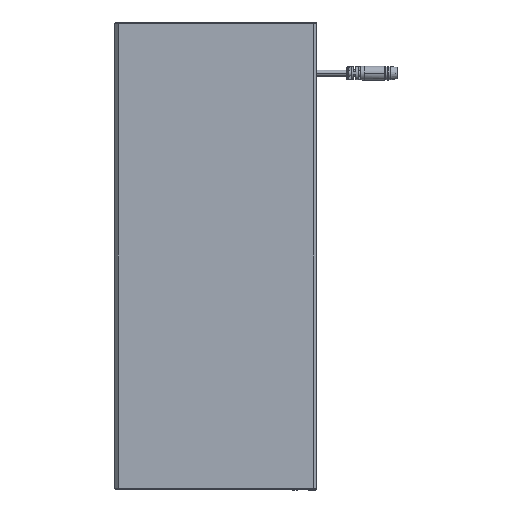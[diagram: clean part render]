
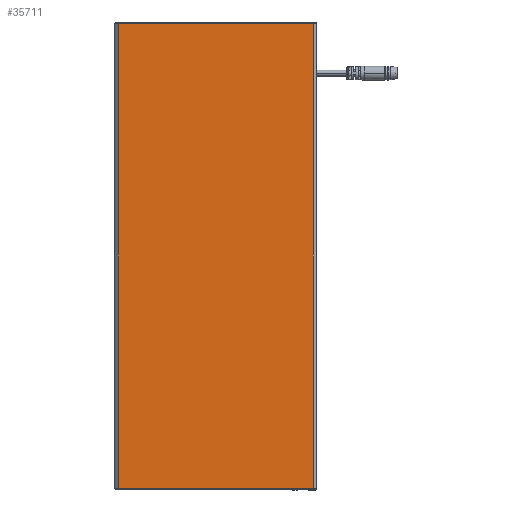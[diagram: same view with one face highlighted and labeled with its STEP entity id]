
A CAD part, front view. The second image highlights one B-rep face of the part: STEP entity #35711.
In plain terms, the highlighted planar face has unit normal (0, -1, 0).
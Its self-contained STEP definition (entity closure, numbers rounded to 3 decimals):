
#2030 = CARTESIAN_POINT ( 'NONE',  ( 881.516, 1157.01, 8.457 ) ) ;
#4106 = EDGE_CURVE ( 'NONE', #57305, #18849, #38367, .T. ) ;
#8577 = CARTESIAN_POINT ( 'NONE',  ( 881.516, 1157.01, 8.457 ) ) ;
#17629 = CARTESIAN_POINT ( 'NONE',  ( 755.516, 1157.01, 8.457 ) ) ;
#18690 = CARTESIAN_POINT ( 'NONE',  ( 881.516, 1157.01, 308.457 ) ) ;
#18849 = VERTEX_POINT ( 'NONE', #54746 ) ;
#19354 = EDGE_CURVE ( 'NONE', #26476, #26379, #35154, .T. ) ;
#19892 = CARTESIAN_POINT ( 'NONE',  ( 881.516, 1157.01, 8.457 ) ) ;
#20879 = VECTOR ( 'NONE', #77897, 1000. ) ;
#22163 = DIRECTION ( 'NONE',  ( -1., 0., 0. ) ) ;
#23397 = ORIENTED_EDGE ( 'NONE', *, *, #26041, .T. ) ;
#24832 = VECTOR ( 'NONE', #22163, 1000. ) ;
#26041 = EDGE_CURVE ( 'NONE', #18849, #26379, #79451, .T. ) ;
#26379 = VERTEX_POINT ( 'NONE', #17629 ) ;
#26476 = VERTEX_POINT ( 'NONE', #19892 ) ;
#28267 = DIRECTION ( 'NONE',  ( 0., 0., 1. ) ) ;
#31857 = CARTESIAN_POINT ( 'NONE',  ( 881.516, 1157.01, 308.457 ) ) ;
#35154 = LINE ( 'NONE', #8577, #24832 ) ;
#35711 = ADVANCED_FACE ( 'NONE', ( #41434 ), #78157, .T. ) ;
#37831 = DIRECTION ( 'NONE',  ( 0., 0., -1. ) ) ;
#38367 = LINE ( 'NONE', #31857, #20879 ) ;
#41434 = FACE_OUTER_BOUND ( 'NONE', #56059, .T. ) ;
#45619 = CARTESIAN_POINT ( 'NONE',  ( 749.216, 1157.01, 323.457 ) ) ;
#50557 = VECTOR ( 'NONE', #28267, 1000. ) ;
#51368 = DIRECTION ( 'NONE',  ( 0., -1., 0. ) ) ;
#51867 = ORIENTED_EDGE ( 'NONE', *, *, #4106, .T. ) ;
#51937 = DIRECTION ( 'NONE',  ( 0., 0., -1. ) ) ;
#52947 = AXIS2_PLACEMENT_3D ( 'NONE', #45619, #51368, #51937 ) ;
#54746 = CARTESIAN_POINT ( 'NONE',  ( 755.516, 1157.01, 308.457 ) ) ;
#56059 = EDGE_LOOP ( 'NONE', ( #80004, #63389, #51867, #23397 ) ) ;
#57305 = VERTEX_POINT ( 'NONE', #18690 ) ;
#63030 = VECTOR ( 'NONE', #37831, 1000. ) ;
#63389 = ORIENTED_EDGE ( 'NONE', *, *, #81654, .T. ) ;
#64094 = CARTESIAN_POINT ( 'NONE',  ( 755.516, 1157.01, 308.457 ) ) ;
#71170 = LINE ( 'NONE', #2030, #50557 ) ;
#77897 = DIRECTION ( 'NONE',  ( -1., 0., 0. ) ) ;
#78157 = PLANE ( 'NONE',  #52947 ) ;
#79451 = LINE ( 'NONE', #64094, #63030 ) ;
#80004 = ORIENTED_EDGE ( 'NONE', *, *, #19354, .F. ) ;
#81654 = EDGE_CURVE ( 'NONE', #26476, #57305, #71170, .T. ) ;
